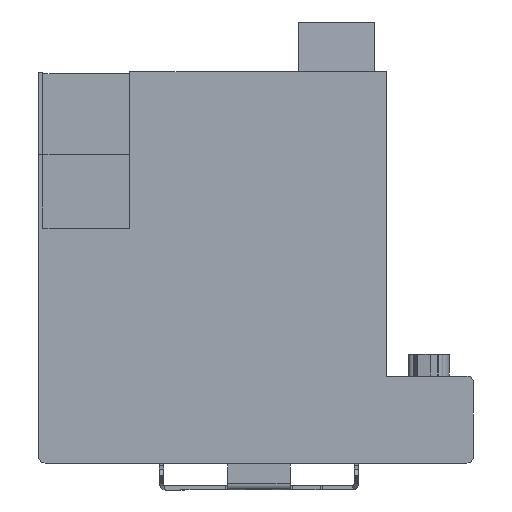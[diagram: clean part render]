
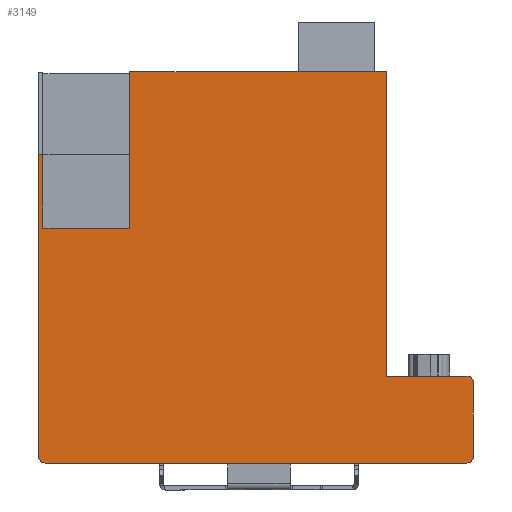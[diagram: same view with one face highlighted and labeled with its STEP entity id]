
A CAD part, left-side view. The second image highlights one B-rep face of the part: STEP entity #3149.
In plain terms, the highlighted planar face has unit normal (-1, 0, 0) as drawn and (0, 1, 0) by its records, which use the part's own axes.
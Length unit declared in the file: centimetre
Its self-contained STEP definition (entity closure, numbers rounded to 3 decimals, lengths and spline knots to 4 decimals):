
#411=VECTOR('',#3597,1.);
#416=VECTOR('',#3609,1.);
#430=VECTOR('',#3637,1.);
#435=VECTOR('',#3645,1.);
#436=VECTOR('',#3646,1.);
#437=VECTOR('',#3647,1.);
#438=VECTOR('',#3648,1.);
#439=VECTOR('',#3649,1.);
#440=VECTOR('',#3650,1.);
#441=VECTOR('',#3651,1.);
#802=LINE('',#4292,#411);
#807=LINE('',#4307,#416);
#821=LINE('',#4343,#430);
#826=LINE('',#4355,#435);
#827=LINE('',#4357,#436);
#828=LINE('',#4359,#437);
#829=LINE('',#4361,#438);
#830=LINE('',#4363,#439);
#831=LINE('',#4365,#440);
#832=LINE('',#4366,#441);
#1179=VERTEX_POINT('',#4287);
#1181=VERTEX_POINT('',#4291);
#1184=VERTEX_POINT('',#4298);
#1185=VERTEX_POINT('',#4300);
#1187=VERTEX_POINT('',#4306);
#1200=VERTEX_POINT('',#4338);
#1201=VERTEX_POINT('',#4339);
#1202=VERTEX_POINT('',#4344);
#1207=VERTEX_POINT('',#4356);
#1208=VERTEX_POINT('',#4358);
#1209=VERTEX_POINT('',#4360);
#1210=VERTEX_POINT('',#4362);
#1211=VERTEX_POINT('',#4364);
#1435=CIRCLE('',#3314,0.15);
#1438=CIRCLE('',#3320,0.15);
#1439=CIRCLE('',#3322,0.15);
#1531=EDGE_CURVE('',#1181,#1179,#802,.T.);
#1534=EDGE_CURVE('',#1184,#1185,#1435,.T.);
#1538=EDGE_CURVE('',#1187,#1184,#807,.T.);
#1553=EDGE_CURVE('',#1179,#1187,#1438,.T.);
#1554=EDGE_CURVE('',#1200,#1201,#1439,.T.);
#1557=EDGE_CURVE('',#1202,#1201,#821,.T.);
#1563=EDGE_CURVE('',#1207,#1181,#826,.T.);
#1564=EDGE_CURVE('',#1208,#1207,#827,.T.);
#1565=EDGE_CURVE('',#1208,#1209,#828,.T.);
#1566=EDGE_CURVE('',#1209,#1210,#829,.T.);
#1567=EDGE_CURVE('',#1210,#1211,#830,.T.);
#1568=EDGE_CURVE('',#1211,#1202,#831,.T.);
#1569=EDGE_CURVE('',#1185,#1200,#832,.T.);
#2085=ORIENTED_EDGE('',*,*,#1534,.F.);
#2086=ORIENTED_EDGE('',*,*,#1538,.F.);
#2087=ORIENTED_EDGE('',*,*,#1553,.F.);
#2088=ORIENTED_EDGE('',*,*,#1531,.F.);
#2089=ORIENTED_EDGE('',*,*,#1563,.F.);
#2090=ORIENTED_EDGE('',*,*,#1564,.F.);
#2091=ORIENTED_EDGE('',*,*,#1565,.T.);
#2092=ORIENTED_EDGE('',*,*,#1566,.T.);
#2093=ORIENTED_EDGE('',*,*,#1567,.T.);
#2094=ORIENTED_EDGE('',*,*,#1568,.T.);
#2095=ORIENTED_EDGE('',*,*,#1557,.T.);
#2096=ORIENTED_EDGE('',*,*,#1554,.F.);
#2097=ORIENTED_EDGE('',*,*,#1569,.F.);
#2822=EDGE_LOOP('',(#2085,#2086,#2087,#2088,#2089,#2090,#2091,#2092,#2093,
#2094,#2095,#2096,#2097));
#2988=FACE_BOUND('',#2822,.T.);
#3149=ADVANCED_FACE('',(#2988),#5105,.T.);
#3314=AXIS2_PLACEMENT_3D('',#4299,#3603,#3604);
#3320=AXIS2_PLACEMENT_3D('',#4335,#3628,#3629);
#3322=AXIS2_PLACEMENT_3D('',#4337,#3632,#3633);
#3325=AXIS2_PLACEMENT_3D('',#4354,#3644,$);
#3597=DIRECTION('',(1.,0.,0.));
#3603=DIRECTION('',(0.,-1.,0.));
#3604=DIRECTION('',(0.106,0.,0.106));
#3609=DIRECTION('',(0.,0.,1.));
#3628=DIRECTION('',(0.,-1.,0.));
#3629=DIRECTION('',(0.106,0.,-0.106));
#3632=DIRECTION('',(0.,-1.,0.));
#3633=DIRECTION('',(-0.106,0.,0.106));
#3637=DIRECTION('',(0.,0.,1.));
#3644=DIRECTION('',(0.,1.,0.));
#3645=DIRECTION('',(0.,0.,1.));
#3646=DIRECTION('',(1.,0.,0.));
#3647=DIRECTION('',(0.,0.,1.));
#3648=DIRECTION('',(-1.,0.,0.));
#3649=DIRECTION('',(0.,0.,-1.));
#3650=DIRECTION('',(-1.,0.,0.));
#3651=DIRECTION('',(-1.,0.,0.));
#4287=CARTESIAN_POINT('',(9.85,12.,7.));
#4291=CARTESIAN_POINT('',(8.,12.,7.));
#4292=CARTESIAN_POINT('',(8.,12.,7.));
#4298=CARTESIAN_POINT('',(10.,12.,8.85));
#4299=CARTESIAN_POINT('',(9.85,12.,8.85));
#4300=CARTESIAN_POINT('',(9.85,12.,9.));
#4306=CARTESIAN_POINT('',(10.,12.,7.15));
#4307=CARTESIAN_POINT('',(10.,12.,7.));
#4335=CARTESIAN_POINT('',(9.85,12.,7.15));
#4337=CARTESIAN_POINT('',(0.15,12.,8.85));
#4338=CARTESIAN_POINT('',(0.15,12.,9.));
#4339=CARTESIAN_POINT('',(0.,12.,8.85));
#4343=CARTESIAN_POINT('',(0.,12.,0.));
#4344=CARTESIAN_POINT('',(0.,12.,1.9));
#4354=CARTESIAN_POINT('',(0.,12.,0.));
#4355=CARTESIAN_POINT('',(8.,12.,0.));
#4356=CARTESIAN_POINT('',(8.,12.,0.));
#4357=CARTESIAN_POINT('',(0.,12.,0.));
#4358=CARTESIAN_POINT('',(2.1,12.,0.));
#4359=CARTESIAN_POINT('',(2.1,12.,1.8));
#4360=CARTESIAN_POINT('',(2.1,12.,3.6));
#4361=CARTESIAN_POINT('',(0.05,12.,3.6));
#4362=CARTESIAN_POINT('',(0.1,12.,3.6));
#4363=CARTESIAN_POINT('',(0.1,12.,0.95));
#4364=CARTESIAN_POINT('',(0.1,12.,1.9));
#4365=CARTESIAN_POINT('',(0.,12.,1.9));
#4366=CARTESIAN_POINT('',(10.,12.,9.));
#5105=PLANE('',#3325);
